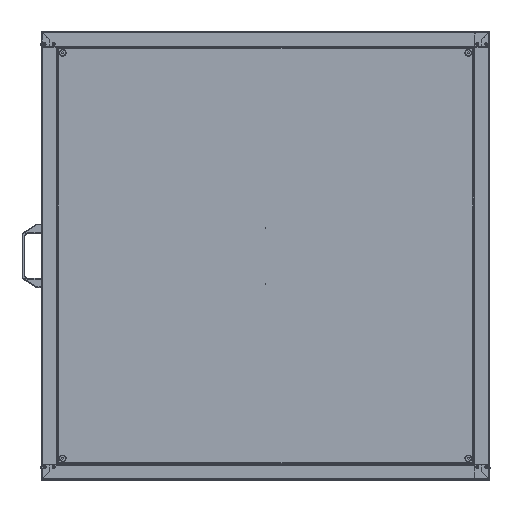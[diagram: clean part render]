
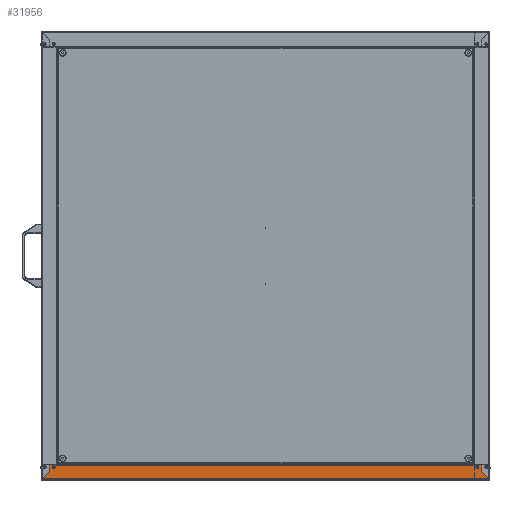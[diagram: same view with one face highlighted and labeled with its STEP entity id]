
A CAD part, top view. The second image highlights one B-rep face of the part: STEP entity #31956.
In plain terms, the highlighted planar face has unit normal (0, 0, 1).
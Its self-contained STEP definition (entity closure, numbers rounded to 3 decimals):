
#575 = EDGE_CURVE ( 'NONE', #39122, #13992, #17911, .T. ) ;
#939 = DIRECTION ( 'NONE',  ( 0., 0., 1. ) ) ;
#1356 = PLANE ( 'NONE',  #59990 ) ;
#2206 = ORIENTED_EDGE ( 'NONE', *, *, #36343, .T. ) ;
#2901 = CARTESIAN_POINT ( 'NONE',  ( 560., -561., 600. ) ) ;
#3200 = CIRCLE ( 'NONE', #51143, 2.1 ) ;
#3649 = EDGE_CURVE ( 'NONE', #67078, #13992, #31469, .T. ) ;
#4848 = CARTESIAN_POINT ( 'NONE',  ( -597.559, -597.7, 600. ) ) ;
#6709 = CARTESIAN_POINT ( 'NONE',  ( 567.2, -566., 600. ) ) ;
#8024 = CIRCLE ( 'NONE', #69594, 2.1 ) ;
#8615 = VERTEX_POINT ( 'NONE', #18102 ) ;
#8985 = DIRECTION ( 'NONE',  ( -0.707, -0.707, 0. ) ) ;
#9414 = ORIENTED_EDGE ( 'NONE', *, *, #61538, .F. ) ;
#10808 = EDGE_CURVE ( 'NONE', #14407, #67078, #35252, .T. ) ;
#11193 = VERTEX_POINT ( 'NONE', #34528 ) ;
#11321 = LINE ( 'NONE', #33964, #67017 ) ;
#11425 = DIRECTION ( 'NONE',  ( 1., 0., 0. ) ) ;
#11641 = VERTEX_POINT ( 'NONE', #49317 ) ;
#12314 = DIRECTION ( 'NONE',  ( 1., 0., 0. ) ) ;
#12570 = DIRECTION ( 'NONE',  ( -1., 0., 0. ) ) ;
#13405 = CARTESIAN_POINT ( 'NONE',  ( -560., -560.2, 600. ) ) ;
#13992 = VERTEX_POINT ( 'NONE', #43307 ) ;
#14233 = EDGE_CURVE ( 'NONE', #19991, #11193, #48912, .T. ) ;
#14407 = VERTEX_POINT ( 'NONE', #54027 ) ;
#14413 = VECTOR ( 'NONE', #33178, 1000. ) ;
#16580 = LINE ( 'NONE', #67655, #29598 ) ;
#16708 = VECTOR ( 'NONE', #11425, 1000. ) ;
#17261 = LINE ( 'NONE', #13405, #45082 ) ;
#17381 = ORIENTED_EDGE ( 'NONE', *, *, #49057, .T. ) ;
#17523 = FACE_BOUND ( 'NONE', #48922, .T. ) ;
#17911 = LINE ( 'NONE', #54300, #14413 ) ;
#18020 = ORIENTED_EDGE ( 'NONE', *, *, #55084, .F. ) ;
#18102 = CARTESIAN_POINT ( 'NONE',  ( 560., -560.2, 600. ) ) ;
#19991 = VERTEX_POINT ( 'NONE', #41247 ) ;
#20214 = ORIENTED_EDGE ( 'NONE', *, *, #40927, .T. ) ;
#20507 = VECTOR ( 'NONE', #8985, 1000. ) ;
#21240 = ORIENTED_EDGE ( 'NONE', *, *, #3649, .T. ) ;
#23080 = CARTESIAN_POINT ( 'NONE',  ( 560., -557.7, 600. ) ) ;
#27148 = ORIENTED_EDGE ( 'NONE', *, *, #36004, .T. ) ;
#28049 = LINE ( 'NONE', #31142, #52393 ) ;
#28666 = DIRECTION ( 'NONE',  ( 0., 0., -1. ) ) ;
#29598 = VECTOR ( 'NONE', #39902, 1000. ) ;
#30608 = EDGE_LOOP ( 'NONE', ( #54816, #18020 ) ) ;
#30778 = CIRCLE ( 'NONE', #37899, 2.1 ) ;
#31034 = EDGE_CURVE ( 'NONE', #63264, #39122, #28049, .T. ) ;
#31106 = LINE ( 'NONE', #23080, #60736 ) ;
#31142 = CARTESIAN_POINT ( 'NONE',  ( 578.8, -559.7, 600. ) ) ;
#31469 = LINE ( 'NONE', #4848, #16708 ) ;
#31956 = ADVANCED_FACE ( 'NONE', ( #61899, #32270, #17523 ), #1356, .F. ) ;
#32270 = FACE_OUTER_BOUND ( 'NONE', #68378, .T. ) ;
#32331 = VECTOR ( 'NONE', #35790, 1000. ) ;
#32744 = DIRECTION ( 'NONE',  ( 0., 0., -1. ) ) ;
#33178 = DIRECTION ( 'NONE',  ( 0.707, -0.707, 0. ) ) ;
#33525 = ORIENTED_EDGE ( 'NONE', *, *, #70233, .T. ) ;
#33714 = CARTESIAN_POINT ( 'NONE',  ( 578.8, -578.941, 600. ) ) ;
#33964 = CARTESIAN_POINT ( 'NONE',  ( -560., -561., 600. ) ) ;
#34250 = CARTESIAN_POINT ( 'NONE',  ( 567.2, -566., 600. ) ) ;
#34380 = CARTESIAN_POINT ( 'NONE',  ( -565.1, -566., 600. ) ) ;
#34513 = EDGE_CURVE ( 'NONE', #11193, #63631, #11321, .T. ) ;
#34528 = CARTESIAN_POINT ( 'NONE',  ( -560., -561., 600. ) ) ;
#34689 = CARTESIAN_POINT ( 'NONE',  ( 565.1, -566., 600. ) ) ;
#35252 = LINE ( 'NONE', #44460, #20507 ) ;
#35790 = DIRECTION ( 'NONE',  ( 0., -1., 0. ) ) ;
#36004 = EDGE_CURVE ( 'NONE', #19991, #44316, #17261, .T. ) ;
#36343 = EDGE_CURVE ( 'NONE', #8615, #63631, #31106, .T. ) ;
#37899 = AXIS2_PLACEMENT_3D ( 'NONE', #62000, #28666, #67601 ) ;
#39122 = VERTEX_POINT ( 'NONE', #33714 ) ;
#39579 = DIRECTION ( 'NONE',  ( 1., 0., 0. ) ) ;
#39862 = DIRECTION ( 'NONE',  ( 1., 0., 0. ) ) ;
#39902 = DIRECTION ( 'NONE',  ( 1., 0., 0. ) ) ;
#40286 = CARTESIAN_POINT ( 'NONE',  ( -600., -558.7, 600. ) ) ;
#40681 = CIRCLE ( 'NONE', #65125, 2.1 ) ;
#40927 = EDGE_CURVE ( 'NONE', #52060, #42189, #30778, .T. ) ;
#41247 = CARTESIAN_POINT ( 'NONE',  ( -560., -560.2, 600. ) ) ;
#42189 = VERTEX_POINT ( 'NONE', #34380 ) ;
#43307 = CARTESIAN_POINT ( 'NONE',  ( 597.559, -597.7, 600. ) ) ;
#44316 = VERTEX_POINT ( 'NONE', #65743 ) ;
#44460 = CARTESIAN_POINT ( 'NONE',  ( -578.8, -578.941, 600. ) ) ;
#45082 = VECTOR ( 'NONE', #57922, 1000. ) ;
#45137 = VERTEX_POINT ( 'NONE', #34689 ) ;
#45273 = CARTESIAN_POINT ( 'NONE',  ( -597.559, -597.7, 600. ) ) ;
#45627 = DIRECTION ( 'NONE',  ( 0., 0., 1. ) ) ;
#45903 = DIRECTION ( 'NONE',  ( 0., 0., -1. ) ) ;
#48912 = LINE ( 'NONE', #63559, #32331 ) ;
#48922 = EDGE_LOOP ( 'NONE', ( #20214, #17381 ) ) ;
#49057 = EDGE_CURVE ( 'NONE', #42189, #52060, #8024, .T. ) ;
#49317 = CARTESIAN_POINT ( 'NONE',  ( 569.3, -566., 600. ) ) ;
#51143 = AXIS2_PLACEMENT_3D ( 'NONE', #6709, #45627, #12314 ) ;
#51632 = VECTOR ( 'NONE', #54395, 1000. ) ;
#52060 = VERTEX_POINT ( 'NONE', #65212 ) ;
#52393 = VECTOR ( 'NONE', #53288, 1000. ) ;
#53288 = DIRECTION ( 'NONE',  ( 0., -1., 0. ) ) ;
#54027 = CARTESIAN_POINT ( 'NONE',  ( -578.8, -578.941, 600. ) ) ;
#54300 = CARTESIAN_POINT ( 'NONE',  ( 578.8, -578.941, 600. ) ) ;
#54395 = DIRECTION ( 'NONE',  ( 0., -1., 0. ) ) ;
#54463 = EDGE_CURVE ( 'NONE', #11641, #45137, #40681, .T. ) ;
#54816 = ORIENTED_EDGE ( 'NONE', *, *, #54463, .F. ) ;
#55084 = EDGE_CURVE ( 'NONE', #45137, #11641, #3200, .T. ) ;
#57922 = DIRECTION ( 'NONE',  ( -1., 0., 0. ) ) ;
#59809 = ORIENTED_EDGE ( 'NONE', *, *, #34513, .F. ) ;
#59929 = ORIENTED_EDGE ( 'NONE', *, *, #575, .F. ) ;
#59990 = AXIS2_PLACEMENT_3D ( 'NONE', #40286, #45903, #12570 ) ;
#60736 = VECTOR ( 'NONE', #61284, 1000. ) ;
#61284 = DIRECTION ( 'NONE',  ( 0., -1., 0. ) ) ;
#61497 = ORIENTED_EDGE ( 'NONE', *, *, #14233, .F. ) ;
#61538 = EDGE_CURVE ( 'NONE', #8615, #63264, #16580, .T. ) ;
#61899 = FACE_BOUND ( 'NONE', #30608, .T. ) ;
#62000 = CARTESIAN_POINT ( 'NONE',  ( -567.2, -566., 600. ) ) ;
#63264 = VERTEX_POINT ( 'NONE', #70152 ) ;
#63559 = CARTESIAN_POINT ( 'NONE',  ( -560., -557.7, 600. ) ) ;
#63631 = VERTEX_POINT ( 'NONE', #2901 ) ;
#65125 = AXIS2_PLACEMENT_3D ( 'NONE', #34250, #939, #39862 ) ;
#65212 = CARTESIAN_POINT ( 'NONE',  ( -569.3, -566., 600. ) ) ;
#65743 = CARTESIAN_POINT ( 'NONE',  ( -578.8, -560.2, 600. ) ) ;
#66130 = CARTESIAN_POINT ( 'NONE',  ( -567.2, -566., 600. ) ) ;
#66467 = LINE ( 'NONE', #70698, #51632 ) ;
#67017 = VECTOR ( 'NONE', #39579, 1000. ) ;
#67078 = VERTEX_POINT ( 'NONE', #45273 ) ;
#67601 = DIRECTION ( 'NONE',  ( -1., 0., 0. ) ) ;
#67655 = CARTESIAN_POINT ( 'NONE',  ( 560., -560.2, 600. ) ) ;
#68378 = EDGE_LOOP ( 'NONE', ( #27148, #33525, #71504, #21240, #59929, #71046, #9414, #2206, #59809, #61497 ) ) ;
#69594 = AXIS2_PLACEMENT_3D ( 'NONE', #66130, #32744, #71671 ) ;
#70152 = CARTESIAN_POINT ( 'NONE',  ( 578.8, -560.2, 600. ) ) ;
#70233 = EDGE_CURVE ( 'NONE', #44316, #14407, #66467, .T. ) ;
#70698 = CARTESIAN_POINT ( 'NONE',  ( -578.8, -559.7, 600. ) ) ;
#71046 = ORIENTED_EDGE ( 'NONE', *, *, #31034, .F. ) ;
#71504 = ORIENTED_EDGE ( 'NONE', *, *, #10808, .T. ) ;
#71671 = DIRECTION ( 'NONE',  ( -1., 0., 0. ) ) ;
